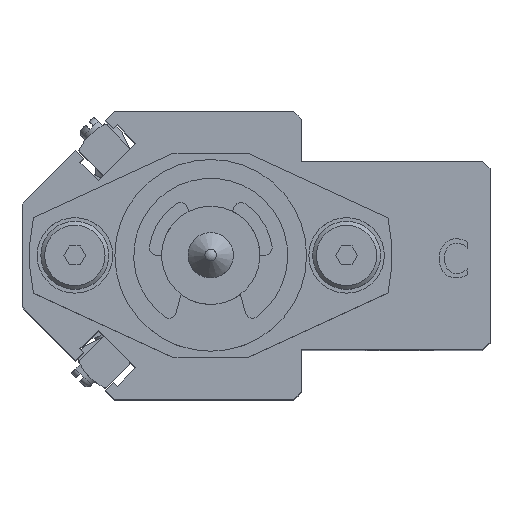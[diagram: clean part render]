
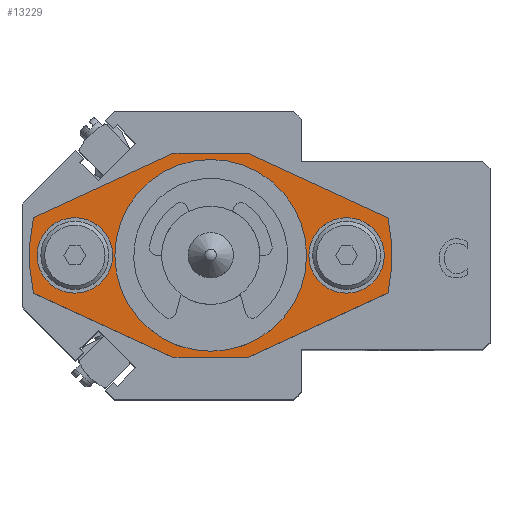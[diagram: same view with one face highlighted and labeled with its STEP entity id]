
A CAD part, top view. The second image highlights one B-rep face of the part: STEP entity #13229.
In plain terms, the highlighted planar face has unit normal (0, 0, 1).
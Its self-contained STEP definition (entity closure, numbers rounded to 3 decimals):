
#376=FACE_BOUND('',#4812,.T.);
#377=FACE_BOUND('',#4813,.T.);
#378=FACE_BOUND('',#4814,.T.);
#1555=LINE('',#21674,#2932);
#1562=LINE('',#21691,#2939);
#1563=LINE('',#21694,#2940);
#1564=LINE('',#21695,#2941);
#1565=LINE('',#21697,#2942);
#1566=LINE('',#21698,#2943);
#2932=VECTOR('',#17605,10.);
#2939=VECTOR('',#17620,10.);
#2940=VECTOR('',#17623,10.);
#2941=VECTOR('',#17624,10.);
#2942=VECTOR('',#17625,10.);
#2943=VECTOR('',#17626,10.);
#3409=CIRCLE('',#14501,10.5);
#3410=CIRCLE('',#14502,10.5);
#3417=CIRCLE('',#14513,24.);
#3419=CIRCLE('',#14516,24.);
#3422=CIRCLE('',#14523,5.);
#3423=CIRCLE('',#14524,5.);
#3424=CIRCLE('',#14525,5.);
#3425=CIRCLE('',#14526,5.);
#4110=FACE_OUTER_BOUND('',#4811,.T.);
#4811=EDGE_LOOP('',(#11100,#11101,#11102,#11103,#11104,#11105,#11106,#11107));
#4812=EDGE_LOOP('',(#11108,#11109));
#4813=EDGE_LOOP('',(#11110,#11111));
#4814=EDGE_LOOP('',(#11112,#11113));
#6014=VERTEX_POINT('',#21632);
#6015=VERTEX_POINT('',#21634);
#6023=VERTEX_POINT('',#21655);
#6024=VERTEX_POINT('',#21657);
#6027=VERTEX_POINT('',#21664);
#6028=VERTEX_POINT('',#21666);
#6030=VERTEX_POINT('',#21672);
#6036=VERTEX_POINT('',#21689);
#6037=VERTEX_POINT('',#21693);
#6038=VERTEX_POINT('',#21696);
#6039=VERTEX_POINT('',#21699);
#6040=VERTEX_POINT('',#21700);
#6041=VERTEX_POINT('',#21703);
#6042=VERTEX_POINT('',#21704);
#7765=EDGE_CURVE('',#6015,#6014,#3409,.T.);
#7766=EDGE_CURVE('',#6014,#6015,#3410,.T.);
#7775=EDGE_CURVE('',#6024,#6023,#3417,.T.);
#7779=EDGE_CURVE('',#6028,#6027,#3419,.T.);
#7783=EDGE_CURVE('',#6023,#6030,#1555,.T.);
#7792=EDGE_CURVE('',#6027,#6036,#1562,.T.);
#7793=EDGE_CURVE('',#6030,#6037,#1563,.T.);
#7794=EDGE_CURVE('',#6037,#6028,#1564,.T.);
#7795=EDGE_CURVE('',#6036,#6038,#1565,.T.);
#7796=EDGE_CURVE('',#6038,#6024,#1566,.T.);
#7797=EDGE_CURVE('',#6039,#6040,#3422,.T.);
#7798=EDGE_CURVE('',#6040,#6039,#3423,.T.);
#7799=EDGE_CURVE('',#6041,#6042,#3424,.T.);
#7800=EDGE_CURVE('',#6042,#6041,#3425,.T.);
#11100=ORIENTED_EDGE('',*,*,#7775,.T.);
#11101=ORIENTED_EDGE('',*,*,#7783,.T.);
#11102=ORIENTED_EDGE('',*,*,#7793,.T.);
#11103=ORIENTED_EDGE('',*,*,#7794,.T.);
#11104=ORIENTED_EDGE('',*,*,#7779,.T.);
#11105=ORIENTED_EDGE('',*,*,#7792,.T.);
#11106=ORIENTED_EDGE('',*,*,#7795,.T.);
#11107=ORIENTED_EDGE('',*,*,#7796,.T.);
#11108=ORIENTED_EDGE('',*,*,#7765,.T.);
#11109=ORIENTED_EDGE('',*,*,#7766,.T.);
#11110=ORIENTED_EDGE('',*,*,#7797,.T.);
#11111=ORIENTED_EDGE('',*,*,#7798,.T.);
#11112=ORIENTED_EDGE('',*,*,#7799,.T.);
#11113=ORIENTED_EDGE('',*,*,#7800,.T.);
#12433=PLANE('',#14522);
#13229=ADVANCED_FACE('',(#4110,#376,#377,#378),#12433,.T.);
#14501=AXIS2_PLACEMENT_3D('',#21635,#17564,#17565);
#14502=AXIS2_PLACEMENT_3D('',#21636,#17566,#17567);
#14513=AXIS2_PLACEMENT_3D('',#21658,#17590,#17591);
#14516=AXIS2_PLACEMENT_3D('',#21667,#17598,#17599);
#14522=AXIS2_PLACEMENT_3D('',#21692,#17621,#17622);
#14523=AXIS2_PLACEMENT_3D('',#21701,#17627,#17628);
#14524=AXIS2_PLACEMENT_3D('',#21702,#17629,#17630);
#14525=AXIS2_PLACEMENT_3D('',#21705,#17631,#17632);
#14526=AXIS2_PLACEMENT_3D('',#21706,#17633,#17634);
#17564=DIRECTION('center_axis',(0.,0.,-1.));
#17565=DIRECTION('ref_axis',(1.,0.,0.));
#17566=DIRECTION('center_axis',(0.,0.,-1.));
#17567=DIRECTION('ref_axis',(1.,0.,0.));
#17590=DIRECTION('center_axis',(0.,0.,1.));
#17591=DIRECTION('ref_axis',(0.978,-0.208,0.));
#17598=DIRECTION('center_axis',(0.,0.,1.));
#17599=DIRECTION('ref_axis',(-0.978,0.208,0.));
#17605=DIRECTION('',(0.908,-0.418,0.));
#17620=DIRECTION('',(-0.908,0.418,0.));
#17621=DIRECTION('center_axis',(0.,0.,1.));
#17622=DIRECTION('ref_axis',(1.,0.,0.));
#17623=DIRECTION('',(1.,0.,0.));
#17624=DIRECTION('',(0.908,0.418,0.));
#17625=DIRECTION('',(-1.,0.,0.));
#17626=DIRECTION('',(-0.908,-0.418,0.));
#17627=DIRECTION('center_axis',(0.,0.,-1.));
#17628=DIRECTION('ref_axis',(1.,0.,0.));
#17629=DIRECTION('center_axis',(0.,0.,-1.));
#17630=DIRECTION('ref_axis',(1.,0.,0.));
#17631=DIRECTION('center_axis',(0.,0.,-1.));
#17632=DIRECTION('ref_axis',(1.,0.,0.));
#17633=DIRECTION('center_axis',(0.,0.,-1.));
#17634=DIRECTION('ref_axis',(1.,0.,0.));
#21632=CARTESIAN_POINT('',(-10.5,0.,6.));
#21634=CARTESIAN_POINT('',(10.5,0.,6.));
#21635=CARTESIAN_POINT('Origin',(0.,0.,6.));
#21636=CARTESIAN_POINT('Origin',(0.,0.,6.));
#21655=CARTESIAN_POINT('',(-23.473,-5.001,6.));
#21657=CARTESIAN_POINT('',(-23.473,5.001,6.));
#21658=CARTESIAN_POINT('Origin',(0.,0.,6.));
#21664=CARTESIAN_POINT('',(23.473,5.001,6.));
#21666=CARTESIAN_POINT('',(23.473,-5.001,6.));
#21667=CARTESIAN_POINT('Origin',(0.,0.,6.));
#21672=CARTESIAN_POINT('',(-5.,-13.5,6.));
#21674=CARTESIAN_POINT('',(-15.7,-8.578,6.));
#21689=CARTESIAN_POINT('',(5.,13.5,6.));
#21691=CARTESIAN_POINT('',(15.7,8.578,6.));
#21692=CARTESIAN_POINT('Origin',(0.,0.,6.));
#21693=CARTESIAN_POINT('',(5.,-13.5,6.));
#21694=CARTESIAN_POINT('',(25.4,-13.5,6.));
#21695=CARTESIAN_POINT('',(15.7,-8.578,6.));
#21696=CARTESIAN_POINT('',(-5.,13.5,6.));
#21697=CARTESIAN_POINT('',(-25.4,13.5,6.));
#21698=CARTESIAN_POINT('',(-15.7,8.578,6.));
#21699=CARTESIAN_POINT('',(-13.,0.,6.));
#21700=CARTESIAN_POINT('',(-23.,0.,6.));
#21701=CARTESIAN_POINT('Origin',(-18.,0.,6.));
#21702=CARTESIAN_POINT('Origin',(-18.,0.,6.));
#21703=CARTESIAN_POINT('',(23.,0.,6.));
#21704=CARTESIAN_POINT('',(13.,0.,6.));
#21705=CARTESIAN_POINT('Origin',(18.,0.,6.));
#21706=CARTESIAN_POINT('Origin',(18.,0.,6.));
